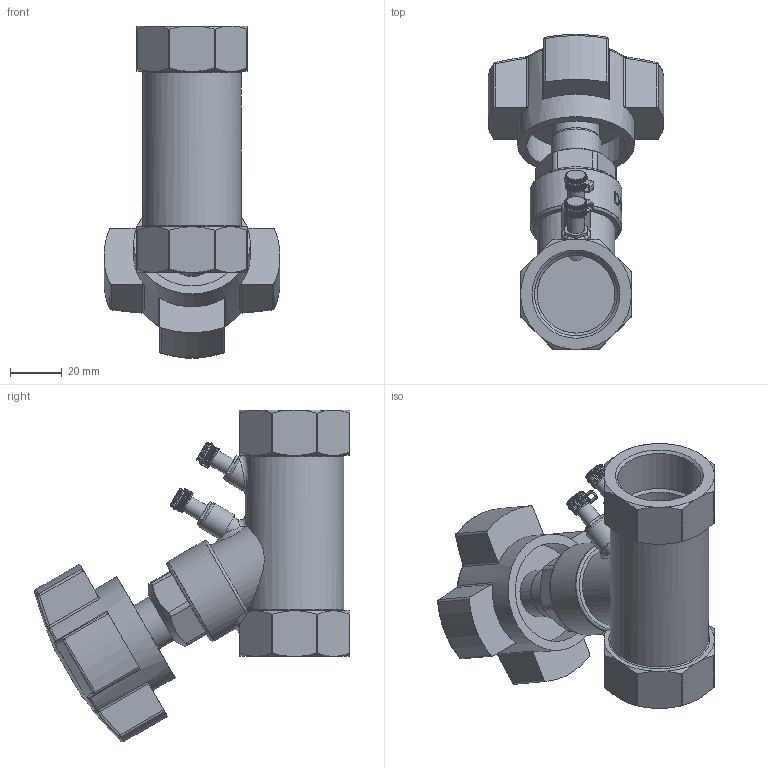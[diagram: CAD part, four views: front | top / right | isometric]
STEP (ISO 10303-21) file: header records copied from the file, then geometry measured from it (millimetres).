
FILE_DESCRIPTION(('STEP AP242'), '1');
FILE_NAME('VB0000P-T Êëàïàí áàëàíñèðîâî÷íûé Äó32 Ðó16', '2026-04-26T17:26:43', ('R2D2'), (''), 'C3D Converter', 'C3D Toolkit', '');
FILE_SCHEMA(('AP242_MANAGED_MODEL_BASED_3D_ENGINEERING_MIM_LF { 1 0 10303 442 1 1 4 }'));
Length unit declared in the file: millimetre
Products named in the file (1): VB0000P-T
Bounding box: 67.83 x 121.49 x 128.02 mm (x, y, z)
Volume: 177135.6 mm3; surface area: 42979.8 mm2
Topology: 1 solids, 2 shells, 1257 faces, 3480 edges, 2267 vertices
Faces by surface type: plane 889, extrusion 124, cylinder 111, cone 55, bspline 50, torus 20, sphere 8
Full cylindrical faces by diameter (mm): 6.5 x2, 11 x1, 15 x1, 17.157 x1, 18 x1, 19.261 x1, 30 x1, 32 x2, 35 x1, 35.4 x1, 38 x2, 45 x1
Entity records: 69223 total; most frequent: CARTESIAN_POINT 28735, ORIENTED_EDGE 6900, DIRECTION 5224, EDGE_CURVE 3450, VERTEX_POINT 2267, VECTOR 2246, LINE 2122, AXIS2_PLACEMENT_3D 1489
